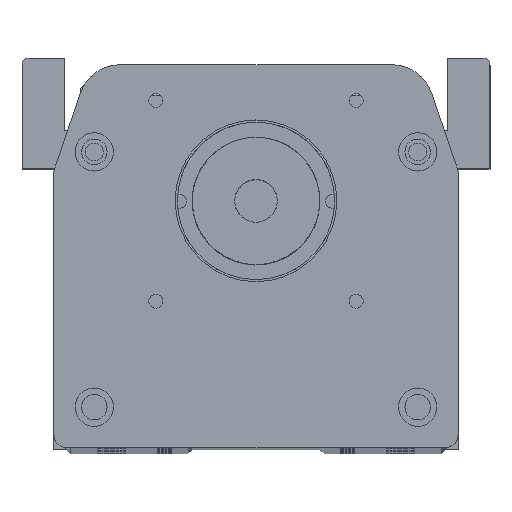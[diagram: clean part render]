
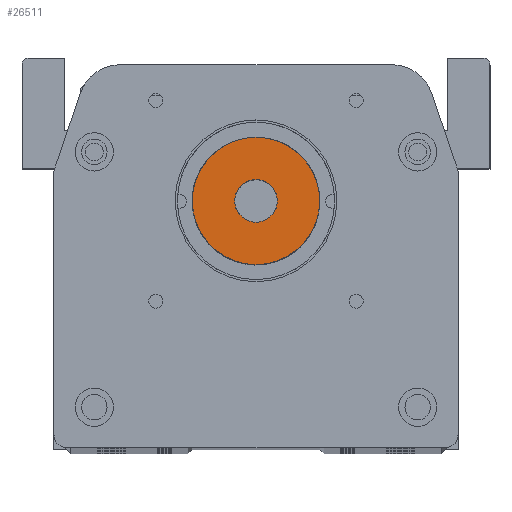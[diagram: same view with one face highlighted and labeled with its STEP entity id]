
A CAD part, top view. The second image highlights one B-rep face of the part: STEP entity #26511.
In plain terms, the highlighted planar face has unit normal (0, 0, 1).
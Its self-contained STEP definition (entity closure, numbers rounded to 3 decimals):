
#31 = DIRECTION ( 'NONE',  ( 1., 0., 0. ) ) ;
#974 = ORIENTED_EDGE ( 'NONE', *, *, #9876, .F. ) ;
#1612 = AXIS2_PLACEMENT_3D ( 'NONE', #34373, #20729, #31 ) ;
#2845 = AXIS2_PLACEMENT_3D ( 'NONE', #36895, #16302, #40372 ) ;
#3333 = PLANE ( 'NONE',  #1612 ) ;
#5414 = DIRECTION ( 'NONE',  ( 0., 0., 1. ) ) ;
#6310 = CARTESIAN_POINT ( 'NONE',  ( -21.138, 0., 40.753 ) ) ;
#8661 = VERTEX_POINT ( 'NONE', #6310 ) ;
#9876 = EDGE_CURVE ( 'NONE', #24035, #10363, #37021, .T. ) ;
#10363 = VERTEX_POINT ( 'NONE', #26378 ) ;
#11447 = ORIENTED_EDGE ( 'NONE', *, *, #37127, .T. ) ;
#12873 = EDGE_CURVE ( 'NONE', #41115, #8661, #35757, .T. ) ;
#14355 = DIRECTION ( 'NONE',  ( 0., 0., 1. ) ) ;
#15187 = ORIENTED_EDGE ( 'NONE', *, *, #21843, .F. ) ;
#16250 = EDGE_LOOP ( 'NONE', ( #11447, #28312 ) ) ;
#16302 = DIRECTION ( 'NONE',  ( 0., 0., 1. ) ) ;
#16851 = CARTESIAN_POINT ( 'NONE',  ( -6.16, 0., 40.753 ) ) ;
#20329 = DIRECTION ( 'NONE',  ( 1., 0., 0. ) ) ;
#20729 = DIRECTION ( 'NONE',  ( 0., 0., 1. ) ) ;
#21843 = EDGE_CURVE ( 'NONE', #10363, #24035, #26849, .T. ) ;
#24035 = VERTEX_POINT ( 'NONE', #36730 ) ;
#26094 = CARTESIAN_POINT ( 'NONE',  ( -6.16, 0., 40.753 ) ) ;
#26378 = CARTESIAN_POINT ( 'NONE',  ( -1.157, 0., 40.753 ) ) ;
#26511 = ADVANCED_FACE ( 'NONE', ( #36206, #27085 ), #3333, .T. ) ;
#26849 = CIRCLE ( 'NONE', #40152, 5.003 ) ;
#27085 = FACE_BOUND ( 'NONE', #31993, .T. ) ;
#28312 = ORIENTED_EDGE ( 'NONE', *, *, #12873, .T. ) ;
#28515 = AXIS2_PLACEMENT_3D ( 'NONE', #16851, #40905, #20329 ) ;
#28955 = AXIS2_PLACEMENT_3D ( 'NONE', #26094, #5414, #29541 ) ;
#29541 = DIRECTION ( 'NONE',  ( 1., 0., 0. ) ) ;
#31167 = CARTESIAN_POINT ( 'NONE',  ( 8.817, 0., 40.753 ) ) ;
#31993 = EDGE_LOOP ( 'NONE', ( #974, #15187 ) ) ;
#34373 = CARTESIAN_POINT ( 'NONE',  ( -6.16, 0., 40.753 ) ) ;
#34932 = CARTESIAN_POINT ( 'NONE',  ( -6.16, 0., 40.753 ) ) ;
#35757 = CIRCLE ( 'NONE', #28955, 14.978 ) ;
#36206 = FACE_OUTER_BOUND ( 'NONE', #16250, .T. ) ;
#36730 = CARTESIAN_POINT ( 'NONE',  ( -11.163, 0., 40.753 ) ) ;
#36895 = CARTESIAN_POINT ( 'NONE',  ( -6.16, 0., 40.753 ) ) ;
#37021 = CIRCLE ( 'NONE', #2845, 5.003 ) ;
#37127 = EDGE_CURVE ( 'NONE', #8661, #41115, #38585, .T. ) ;
#38392 = DIRECTION ( 'NONE',  ( 1., 0., 0. ) ) ;
#38585 = CIRCLE ( 'NONE', #28515, 14.978 ) ;
#40152 = AXIS2_PLACEMENT_3D ( 'NONE', #34932, #14355, #38392 ) ;
#40372 = DIRECTION ( 'NONE',  ( 1., 0., 0. ) ) ;
#40905 = DIRECTION ( 'NONE',  ( 0., 0., 1. ) ) ;
#41115 = VERTEX_POINT ( 'NONE', #31167 ) ;
